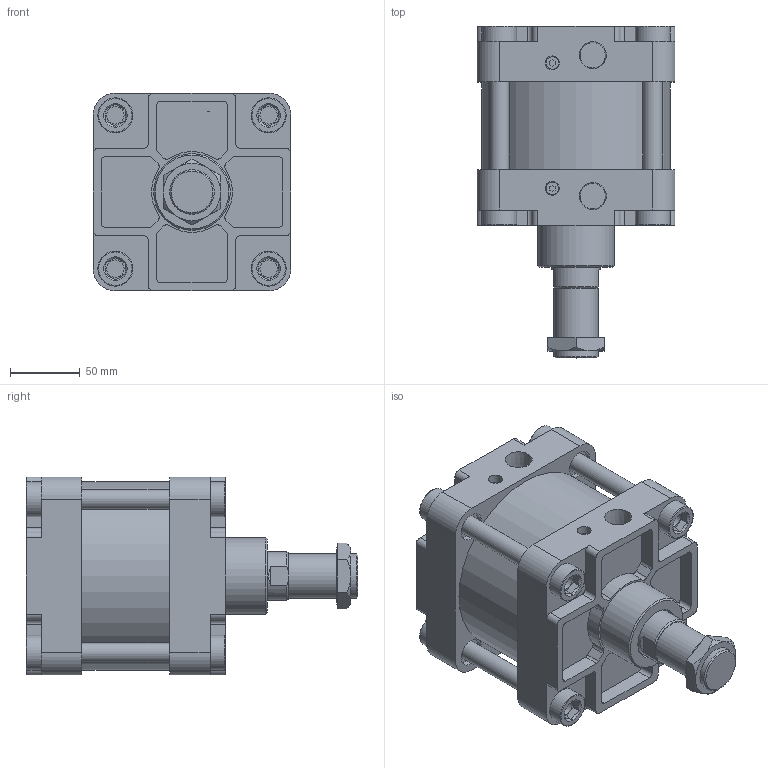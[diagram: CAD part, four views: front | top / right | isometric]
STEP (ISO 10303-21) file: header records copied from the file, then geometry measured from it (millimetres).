
FILE_DESCRIPTION(/* description */ ('Unknown'),/* implementation_level */ '2;1');
FILE_NAME(/* name */ 'WA125-0',/* time_stamp */ '2026-07-17T16:58:48+08:00',/* author */ ('Unknown'),/* organization */ ('Unknown'),/* preprocessor_version */ 'ST-DEVELOPER v16.7',/* originating_system */ 'DEX',/* authorisation */ $);
FILE_SCHEMA (('CONFIG_CONTROL_DESIGN'));
Length unit declared in the file: millimetre
Products named in the file (7): WA125-0; WA125_«eceRefs; WA125_後3; WA125_鋁; M32-2.0P-10_螺; WA125_､ﾟｶbｬ｡ﾃ_;m^XD}; WA125_TｴU､ⅱ
Assembly tree (9 placements, depth 2):
  WA125-0
    WA125_«eceRefs
    WA125_後3
    WA125_鋁
    M32-2.0P-10_螺
    WA125_､ﾟｶbｬ｡ﾃ_;m^XD}
    WA125_TｴU､ⅱ  x4
Bounding box: 142 x 238 x 142 mm (x, y, z)
Volume: 2357643.5 mm3; surface area: 331172.7 mm2
Topology: 9 solids, 9 shells, 390 faces, 954 edges, 634 vertices
Faces by surface type: plane 220, cylinder 139, cone 23, torus 8
Full cylindrical faces by diameter (mm): 9 x2, 10 x2, 12.5 x8, 14 x4, 20 x8, 20.5 x8, 25 x8, 30 x1, 32 x1, 35 x1, 36 x1, 41 x1, 55 x1, 124.5 x1, 125 x3, 135 x1
Entity records: 10718 total; most frequent: CARTESIAN_POINT 1599, DIRECTION 1526, ORIENTED_EDGE 1372, EDGE_CURVE 686, AXIS2_PLACEMENT_3D 567, VERTEX_POINT 476, LINE 392, VECTOR 392
